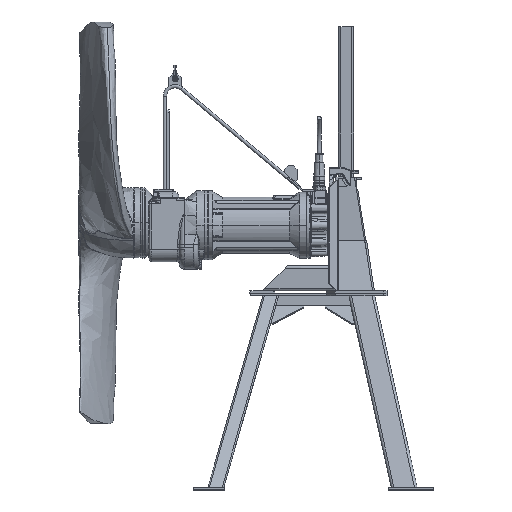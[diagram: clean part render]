
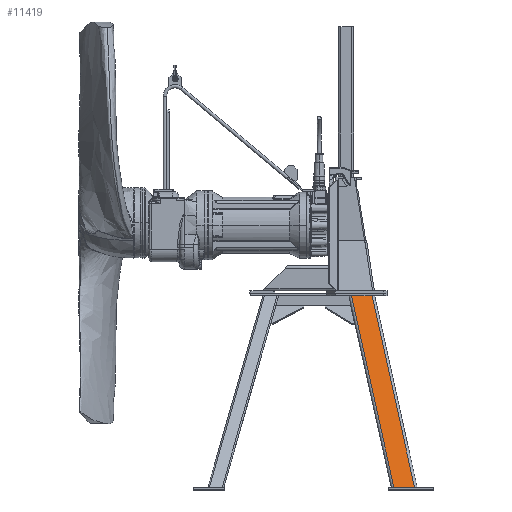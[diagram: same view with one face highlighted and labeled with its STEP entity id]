
A CAD part, top view. The second image highlights one B-rep face of the part: STEP entity #11419.
In plain terms, the highlighted planar face has unit normal (-0.098, 0.443, 0.891).
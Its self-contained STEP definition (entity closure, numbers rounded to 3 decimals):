
#11419 = ADVANCED_FACE ( 'NONE', ( #53195 ), #53200, .F. ) ;
#53186 = CARTESIAN_POINT ( 'NONE',  ( 967.118, -1692.801, 806.417 ) ) ;
#53195 = FACE_OUTER_BOUND ( 'NONE', #98993, .T. ) ;
#53200 = PLANE ( 'NONE',  #186251 ) ;
#53206 = DIRECTION ( 'NONE',  ( 0.098, -0.443, -0.891 ) ) ;
#53209 = DIRECTION ( 'NONE',  ( 0.193, -0.87, 0.454 ) ) ;
#98993 = EDGE_LOOP ( 'NONE', ( #413686, #413689, #413692, #413695 ) ) ;
#119685 = VECTOR ( 'NONE', #193476, 1000. ) ;
#120004 = VECTOR ( 'NONE', #194209, 1000. ) ;
#120012 = VECTOR ( 'NONE', #194226, 1000. ) ;
#120016 = VECTOR ( 'NONE', #194243, 1000. ) ;
#186251 = AXIS2_PLACEMENT_3D ( 'NONE', #53186, #53206, #53209 ) ;
#193462 = LINE ( 'NONE', #193472, #119685 ) ;
#193472 = CARTESIAN_POINT ( 'NONE',  ( 1043.637, -281.014, 112.566 ) ) ;
#193476 = DIRECTION ( 'NONE',  ( -0.994, 0., -0.11 ) ) ;
#194204 = LINE ( 'NONE', #194207, #120004 ) ;
#194207 = CARTESIAN_POINT ( 'NONE',  ( 888.545, -1710.22, 806.417 ) ) ;
#194209 = DIRECTION ( 'NONE',  ( -0.193, 0.87, -0.454 ) ) ;
#194221 = LINE ( 'NONE', #194224, #120012 ) ;
#194224 = CARTESIAN_POINT ( 'NONE',  ( 967.118, -1692.801, 806.417 ) ) ;
#194226 = DIRECTION ( 'NONE',  ( -0.193, 0.87, -0.454 ) ) ;
#194238 = LINE ( 'NONE', #194241, #120016 ) ;
#194241 = CARTESIAN_POINT ( 'NONE',  ( 1002.197, -1045.581, 488.328 ) ) ;
#194243 = DIRECTION ( 'NONE',  ( 0.994, 0., 0.11 ) ) ;
#247041 = VERTEX_POINT ( 'NONE', #249077 ) ;
#247059 = VERTEX_POINT ( 'NONE', #249089 ) ;
#247158 = VERTEX_POINT ( 'NONE', #249175 ) ;
#247174 = VERTEX_POINT ( 'NONE', #249191 ) ;
#249077 = CARTESIAN_POINT ( 'NONE',  ( 571.698, -281.014, 60.52 ) ) ;
#249089 = CARTESIAN_POINT ( 'NONE',  ( 654.132, -281.014, 69.611 ) ) ;
#249175 = CARTESIAN_POINT ( 'NONE',  ( 741.198, -1045.581, 459.544 ) ) ;
#249191 = CARTESIAN_POINT ( 'NONE',  ( 823.633, -1045.581, 468.635 ) ) ;
#261230 = EDGE_CURVE ( 'NONE', #247059, #247041, #193462, .T. ) ;
#261422 = EDGE_CURVE ( 'NONE', #247158, #247041, #194204, .T. ) ;
#261426 = EDGE_CURVE ( 'NONE', #247174, #247059, #194221, .T. ) ;
#261431 = EDGE_CURVE ( 'NONE', #247158, #247174, #194238, .T. ) ;
#413686 = ORIENTED_EDGE ( 'NONE', *, *, #261426, .T. ) ;
#413689 = ORIENTED_EDGE ( 'NONE', *, *, #261230, .T. ) ;
#413692 = ORIENTED_EDGE ( 'NONE', *, *, #261422, .F. ) ;
#413695 = ORIENTED_EDGE ( 'NONE', *, *, #261431, .T. ) ;
